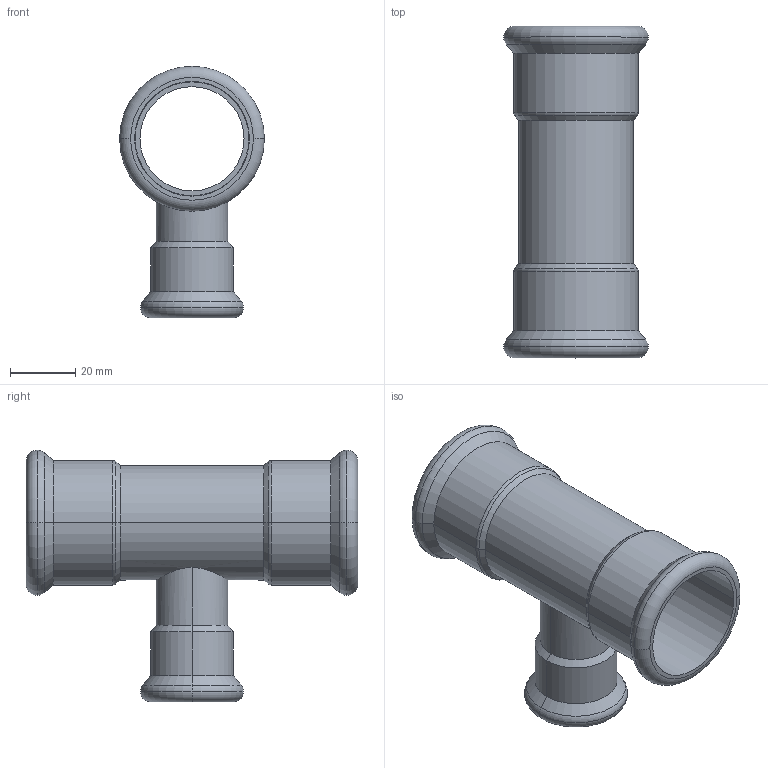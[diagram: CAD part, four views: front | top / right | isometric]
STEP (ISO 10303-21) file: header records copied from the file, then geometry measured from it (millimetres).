
FILE_DESCRIPTION(('CoCreate Modeling STEP Export'),'2;1');
FILE_NAME('C1415 35x22x35.stp','2014-11-12T10:06:51',(''),(''),'CoCreate Modeling STEP processor for AP214 (Solid Model)','CoCreate Modeling 17.00A 17-Jun-2010 (C) Parametric Technology GmbH','');
FILE_SCHEMA(('AUTOMOTIVE_DESIGN { 1 0 10303 214 1 1 1 1 }'));
Length unit declared in the file: millimetre
Products named in the file (2): C1415_35x22x35
Assembly tree (1 placements, depth 2):
  C1415_35x22x35
    C1415_35x22x35
Bounding box: 44.55 x 102 x 77.28 mm (x, y, z)
Volume: 28462 mm3; surface area: 30645.2 mm2
Topology: 1 solids, 1 shells, 64 faces, 129 edges, 75 vertices
Faces by surface type: cylinder 27, torus 16, cone 12, plane 9
Entity records: 2465 total; most frequent: CARTESIAN_POINT 1278, ORIENTED_EDGE 258, DIRECTION 212, EDGE_CURVE 129, AXIS2_PLACEMENT_3D 87, VERTEX_POINT 75, EDGE_LOOP 74, FACE_OUTER_BOUND 64
